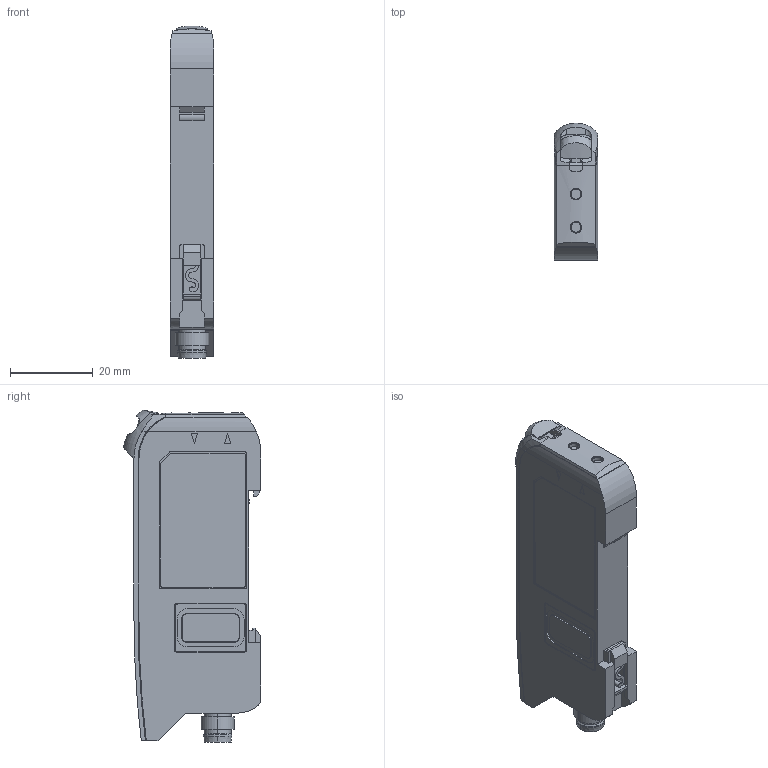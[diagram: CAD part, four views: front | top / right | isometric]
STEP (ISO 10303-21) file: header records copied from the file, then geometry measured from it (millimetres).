
FILE_DESCRIPTION (( 'STEP AP214' ), '1' );
FILE_NAME ('D4RF-MC4.STEP', '2022-04-25T10:54:53', ( '' ), ( '' ), 'SwSTEP 2.0', 'SolidWorks 2021', '' );
FILE_SCHEMA (( 'AUTOMOTIVE_DESIGN' ));
Length unit declared in the file: millimetre
Products named in the file (1): D4RF-MC4
Bounding box: 10.55 x 33.17 x 80.15 mm (x, y, z)
Volume: 22268.7 mm3; surface area: 8262.6 mm2
Topology: 1 solids, 15 shells, 546 faces, 1451 edges, 948 vertices
Faces by surface type: plane 265, cylinder 147, bspline 84, cone 31, torus 11, sphere 8
Entity records: 19630 total; most frequent: CARTESIAN_POINT 6809, ORIENTED_EDGE 2874, DIRECTION 2282, EDGE_CURVE 1437, VERTEX_POINT 940, VECTOR 788, LINE 788, AXIS2_PLACEMENT_3D 747
